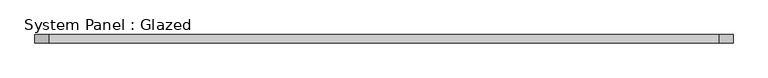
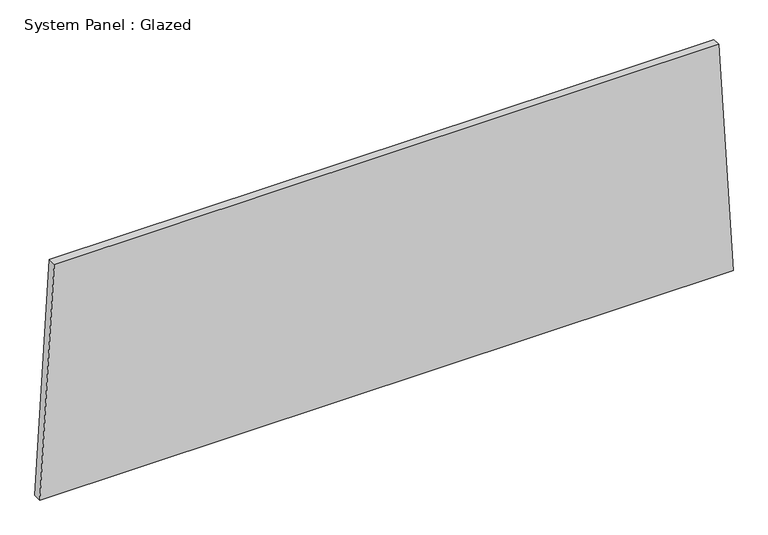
"""IFC4 building model written with IfcOpenShell, lengths in millimetres: plate geometry, System Panel : Glazed."""

from ifc_helpers import new_model, si_unit, frame, origin, place, context, project, spatial, polyline, outline, extrude, source, transform, mapped, element, save


def system_panel_glazed_6000cac6(model_context):
    return source(origin(), model_context, "Body", "SweptSolid", [
        extrude(outline(polyline([(0.0, -1042.8384023), (0.0, 1042.8384023), (735.3003601, 999.8382587), (735.3003601, -999.8382587), (0.0, -1042.8384023)])), frame((0.0, 19.05, 0.0), z_axis=(0.0, 1.0, 0.0), x_axis=(0.0, 0.0, 1.0)), (0.0, 0.0, 1.0), 25.4),
    ])


if __name__ == "__main__":
    model = new_model("IFC4")
    model_context = context("Model", 3, world=origin())
    ifc_project = project(units=[si_unit("LENGTHUNIT", "METRE", prefix="MILLI")], contexts=[model_context])
    site = spatial("IfcSite", under=ifc_project)
    building = spatial("IfcBuilding", under=site)
    placement = place(None, origin())
    system_panel_glazed_shape = system_panel_glazed_6000cac6(model_context)
    element("IfcPlate", 1, ObjectType="System Panel : Glazed", at=placement, inside=building, context=model_context, shape_type="MappedRepresentation", body=[
        mapped(system_panel_glazed_shape, transform((0.0, 0.0, 0.0), x_axis=(1.0, 0.0, 0.0), y_axis=(0.0, 1.0, 0.0), z_axis=(0.0, 0.0, 1.0))),
    ])
    save(model, "model.ifc")
